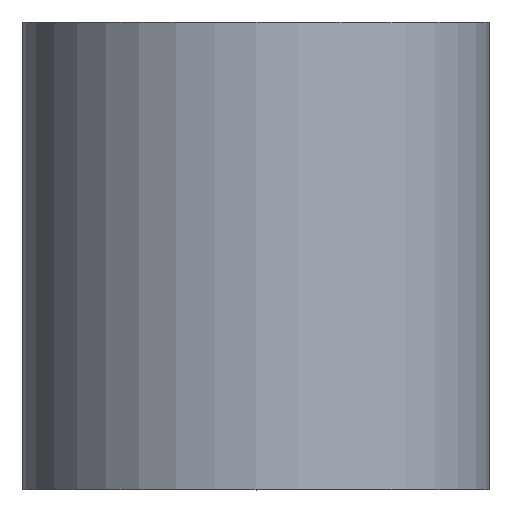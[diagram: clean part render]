
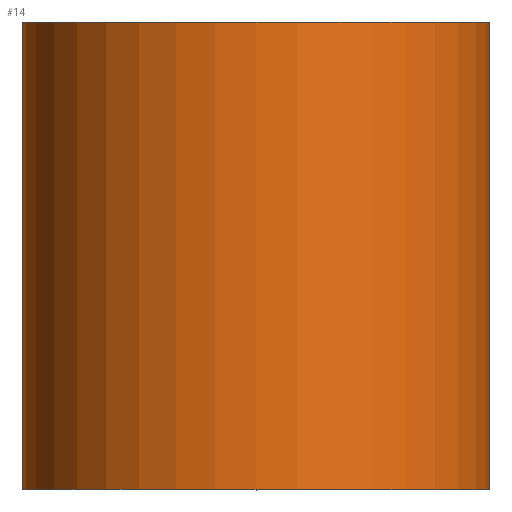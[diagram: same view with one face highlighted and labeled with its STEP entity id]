
A CAD part, top view. The second image highlights one B-rep face of the part: STEP entity #14.
In plain terms, the highlighted cylindrical face has radius 4 mm (diameter 8 mm), a partial arc.
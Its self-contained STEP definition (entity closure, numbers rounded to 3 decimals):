
#2 = CARTESIAN_POINT ( 'NONE',  ( 0., 8., 0. ) ) ;
#7 = CARTESIAN_POINT ( 'NONE',  ( 0., 0., 0. ) ) ;
#9 = DIRECTION ( 'NONE',  ( 0., 1., 0. ) ) ;
#14 = ADVANCED_FACE ( 'NONE', ( #37 ), #192, .T. ) ;
#28 = EDGE_CURVE ( 'NONE', #52, #48, #170, .T. ) ;
#37 = FACE_OUTER_BOUND ( 'NONE', #143, .T. ) ;
#39 = ORIENTED_EDGE ( 'NONE', *, *, #91, .T. ) ;
#48 = VERTEX_POINT ( 'NONE', #254 ) ;
#50 = AXIS2_PLACEMENT_3D ( 'NONE', #2, #251, #204 ) ;
#51 = CARTESIAN_POINT ( 'NONE',  ( -4., 0., 0. ) ) ;
#52 = VERTEX_POINT ( 'NONE', #92 ) ;
#58 = VECTOR ( 'NONE', #230, 1000. ) ;
#59 = CARTESIAN_POINT ( 'NONE',  ( 4., 0., 0. ) ) ;
#70 = CARTESIAN_POINT ( 'NONE',  ( 4., 0., 0. ) ) ;
#91 = EDGE_CURVE ( 'NONE', #133, #202, #276, .T. ) ;
#92 = CARTESIAN_POINT ( 'NONE',  ( -4., 8., 0. ) ) ;
#107 = ORIENTED_EDGE ( 'NONE', *, *, #272, .T. ) ;
#110 = ORIENTED_EDGE ( 'NONE', *, *, #28, .F. ) ;
#116 = CARTESIAN_POINT ( 'NONE',  ( 0., 0., 0. ) ) ;
#133 = VERTEX_POINT ( 'NONE', #264 ) ;
#143 = EDGE_LOOP ( 'NONE', ( #39, #107, #110, #209 ) ) ;
#163 = DIRECTION ( 'NONE',  ( -1., 0., 0. ) ) ;
#170 = CIRCLE ( 'NONE', #50, 4. ) ;
#173 = DIRECTION ( 'NONE',  ( 0., 1., 0. ) ) ;
#192 = CYLINDRICAL_SURFACE ( 'NONE', #265, 4. ) ;
#194 = AXIS2_PLACEMENT_3D ( 'NONE', #7, #9, #232 ) ;
#195 = LINE ( 'NONE', #51, #58 ) ;
#202 = VERTEX_POINT ( 'NONE', #70 ) ;
#204 = DIRECTION ( 'NONE',  ( -1., 0., 0. ) ) ;
#209 = ORIENTED_EDGE ( 'NONE', *, *, #211, .F. ) ;
#211 = EDGE_CURVE ( 'NONE', #133, #52, #195, .T. ) ;
#230 = DIRECTION ( 'NONE',  ( 0., 1., 0. ) ) ;
#232 = DIRECTION ( 'NONE',  ( -1., 0., 0. ) ) ;
#251 = DIRECTION ( 'NONE',  ( 0., 1., 0. ) ) ;
#254 = CARTESIAN_POINT ( 'NONE',  ( 4., 8., 0. ) ) ;
#264 = CARTESIAN_POINT ( 'NONE',  ( -4., 0., 0. ) ) ;
#265 = AXIS2_PLACEMENT_3D ( 'NONE', #116, #267, #163 ) ;
#267 = DIRECTION ( 'NONE',  ( 0., 1., 0. ) ) ;
#271 = VECTOR ( 'NONE', #173, 1000. ) ;
#272 = EDGE_CURVE ( 'NONE', #202, #48, #295, .T. ) ;
#276 = CIRCLE ( 'NONE', #194, 4. ) ;
#295 = LINE ( 'NONE', #59, #271 ) ;
